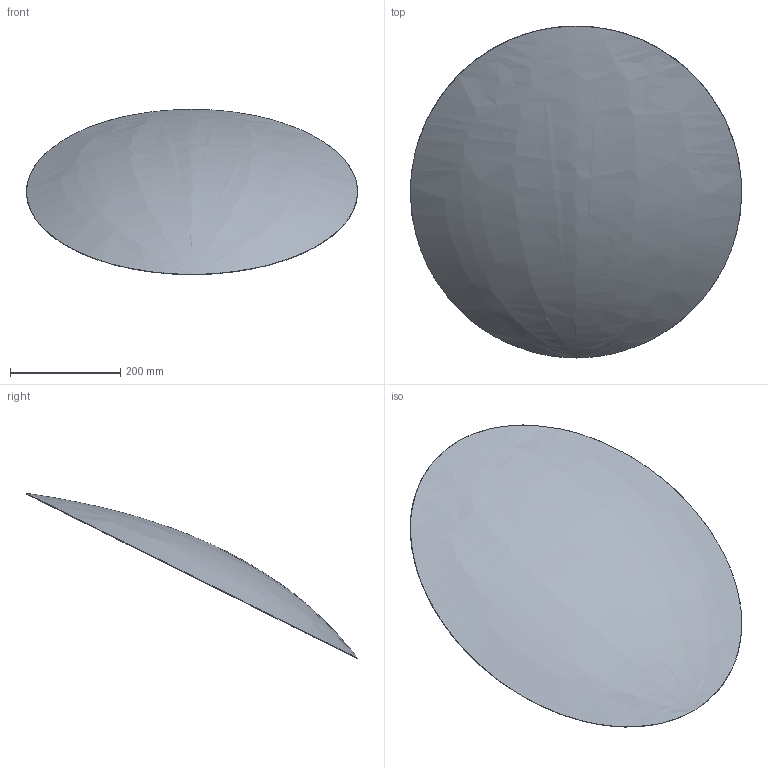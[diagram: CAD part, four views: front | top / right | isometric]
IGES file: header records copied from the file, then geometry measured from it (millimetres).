
Start section: 3D InterOp IGES (Version 24 0 0), Spatial Corp. Copyright (c) 1999-2007.
Global section: file name: Supral0.6.igs; native system: Spatial Corp.; preprocessor: 3D InterOp ACIS/IGES; author: Evgeny; organization: Noname; date: 20151227.142324; units: millimetre
Bounding box: 600.69 x 601.48 x 299.63 mm (x, y, z)
Surface area: 663004.4 mm2 (no closed solid volume)
Topology: 0 solids, 0 shells, 4 faces, 162 edges, 160 vertices
Faces by surface type: bspline 2, offset 1, revolution 1
